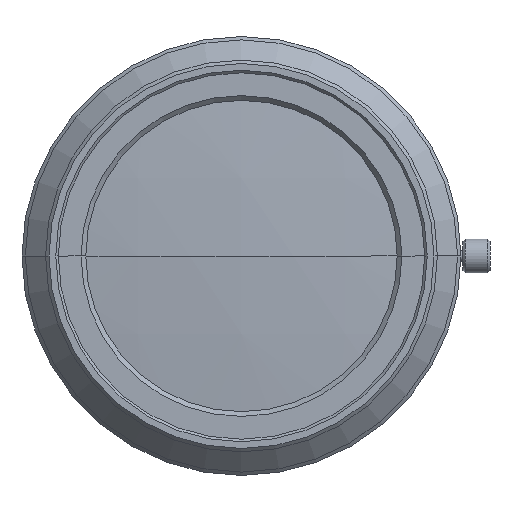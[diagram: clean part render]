
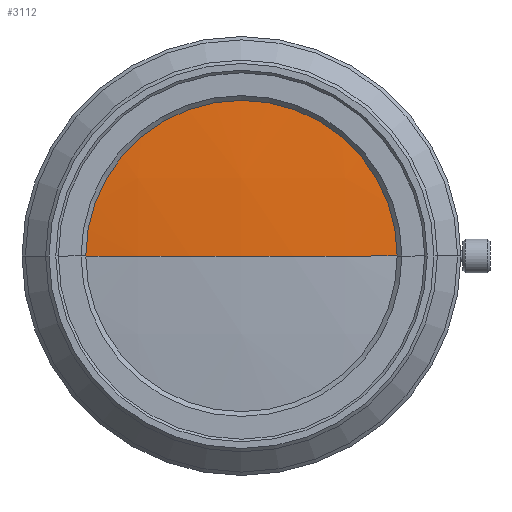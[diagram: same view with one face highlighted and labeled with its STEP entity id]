
A CAD part, left-side view. The second image highlights one B-rep face of the part: STEP entity #3112.
In plain terms, the highlighted spherical face has radius 236 mm.
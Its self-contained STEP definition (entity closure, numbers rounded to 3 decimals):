
#79 = CIRCLE ( 'NONE', #1021, 23.052 ) ;
#141 = VERTEX_POINT ( 'NONE', #2889 ) ;
#359 = EDGE_CURVE ( 'NONE', #141, #1965, #79, .T. ) ;
#481 = CARTESIAN_POINT ( 'NONE',  ( 136.08, 0., 0. ) ) ;
#522 = DIRECTION ( 'NONE',  ( 0., 0., 1. ) ) ;
#524 = ORIENTED_EDGE ( 'NONE', *, *, #3066, .F. ) ;
#608 = CARTESIAN_POINT ( 'NONE',  ( 136.08, 0., 0. ) ) ;
#806 = DIRECTION ( 'NONE',  ( 1., 0., 0. ) ) ;
#1021 = AXIS2_PLACEMENT_3D ( 'NONE', #2921, #806, #2839 ) ;
#1395 = ORIENTED_EDGE ( 'NONE', *, *, #359, .F. ) ;
#1603 = AXIS2_PLACEMENT_3D ( 'NONE', #608, #3591, #1769 ) ;
#1769 = DIRECTION ( 'NONE',  ( -1., 0., 0. ) ) ;
#1965 = VERTEX_POINT ( 'NONE', #2023 ) ;
#2023 = CARTESIAN_POINT ( 'NONE',  ( -98.791, -23.052, 0. ) ) ;
#2164 = CIRCLE ( 'NONE', #1603, 236. ) ;
#2172 = FACE_OUTER_BOUND ( 'NONE', #3672, .T. ) ;
#2460 = CARTESIAN_POINT ( 'NONE',  ( 136.08, 0., 0. ) ) ;
#2542 = AXIS2_PLACEMENT_3D ( 'NONE', #2460, #3397, #3652 ) ;
#2729 = CARTESIAN_POINT ( 'NONE',  ( -99.92, 0., 0. ) ) ;
#2839 = DIRECTION ( 'NONE',  ( 0., 1., 0. ) ) ;
#2889 = CARTESIAN_POINT ( 'NONE',  ( -98.791, 23.052, 0. ) ) ;
#2892 = ORIENTED_EDGE ( 'NONE', *, *, #3246, .T. ) ;
#2921 = CARTESIAN_POINT ( 'NONE',  ( -98.791, 0., 0. ) ) ;
#2927 = DIRECTION ( 'NONE',  ( 0., -1., 0. ) ) ;
#3056 = VERTEX_POINT ( 'NONE', #2729 ) ;
#3066 = EDGE_CURVE ( 'NONE', #3056, #141, #2164, .T. ) ;
#3112 = ADVANCED_FACE ( 'NONE', ( #2172 ), #3713, .T. ) ;
#3246 = EDGE_CURVE ( 'NONE', #3056, #1965, #3731, .T. ) ;
#3397 = DIRECTION ( 'NONE',  ( 0., 0., 1. ) ) ;
#3412 = AXIS2_PLACEMENT_3D ( 'NONE', #481, #522, #2927 ) ;
#3591 = DIRECTION ( 'NONE',  ( 0., 0., -1. ) ) ;
#3652 = DIRECTION ( 'NONE',  ( 0., 1., 0. ) ) ;
#3672 = EDGE_LOOP ( 'NONE', ( #524, #2892, #1395 ) ) ;
#3713 = SPHERICAL_SURFACE ( 'NONE', #2542, 236. ) ;
#3731 = CIRCLE ( 'NONE', #3412, 236. ) ;
